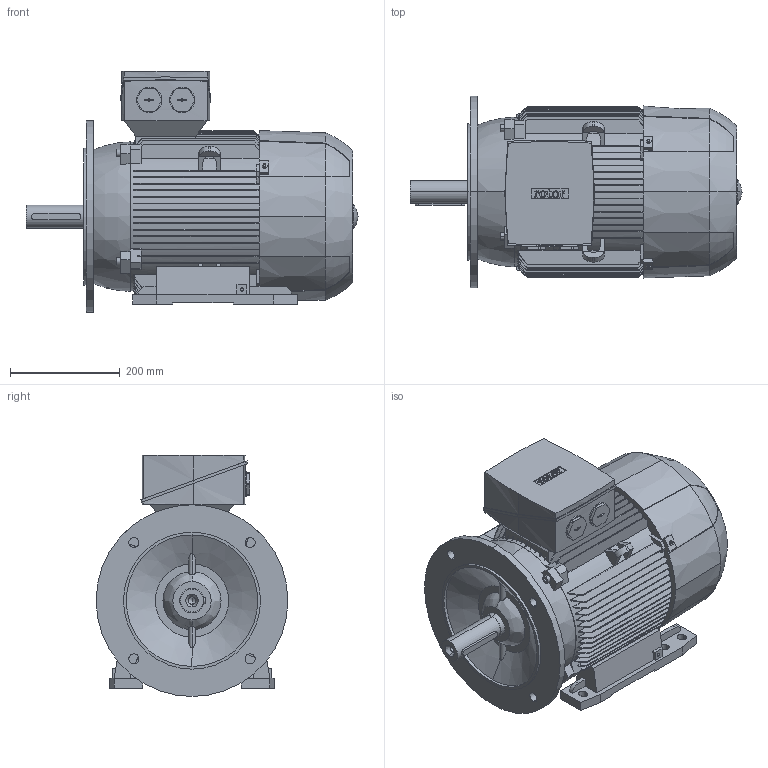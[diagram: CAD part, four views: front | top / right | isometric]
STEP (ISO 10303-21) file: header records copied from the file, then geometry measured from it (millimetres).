
FILE_DESCRIPTION (( 'STEP AP214' ), '1' );
FILE_NAME ('6RN160M02E13 IM2041.STEP', '2016-12-30T10:57:42', ( 'rbc_ict' ), ( 'Microsoft' ), 'SwSTEP 2.0', 'SolidWorks 2015', '' );
FILE_SCHEMA (( 'AUTOMOTIVE_DESIGN' ));
Length unit declared in the file: millimetre
Products named in the file (1): 6RN160M02E13 IM2041
Bounding box: 606 x 350 x 440 mm (x, y, z)
Volume: 35404071.3 mm3; surface area: 1470825.5 mm2
Topology: 1 solids, 1 shells, 1041 faces, 2954 edges, 1951 vertices
Faces by surface type: plane 628, cylinder 203, bspline 184, cone 26
Entity records: 50456 total; most frequent: CARTESIAN_POINT 14551, ORIENTED_EDGE 5900, DIRECTION 4445, EDGE_CURVE 2950, VERTEX_POINT 1951, LINE 1723, VECTOR 1723, AXIS2_PLACEMENT_3D 1361
